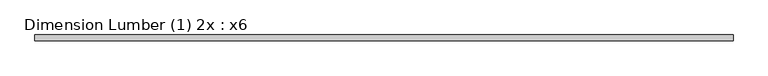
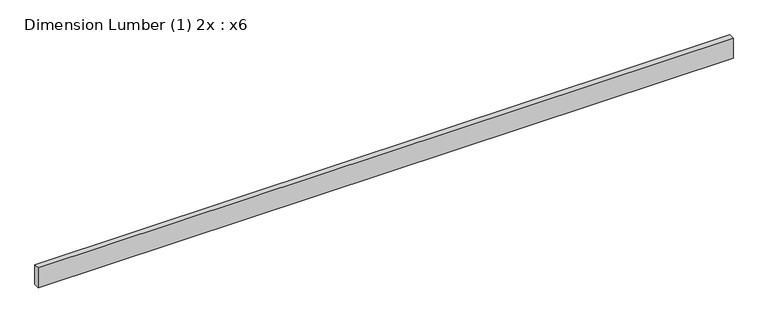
"""IFC4 building model written with IfcOpenShell, lengths in millimetres: beam geometry, Dimension Lumber (1) 2x : x6."""

import ifcopenshell
import ifcopenshell.guid

model = None  # the IFC model being written
_history = None  # IfcOwnerHistory: only IFC2X3 demands one
_inside = {}  # id of a spatial element -> (the spatial element, [elements in it])
_under = {}  # id of a project, library or spatial element -> (it, [spatial elements below it])
_declared = {}  # id of a project -> (the project, [libraries it declares])
_typed = {}  # id of a type object -> (the type object, [elements of that type])
_made_of = {}  # id of a material, layer set ... -> (it, [elements and type objects made of it])


def new_model(schema):
    """Start an empty IFC model of exactly this schema.

    Asked for "IFC4X3", IfcOpenShell would pick the latest addendum, in which some entities
    have other attributes; the version numbers below select the first issue.
    IFC2X3 requires an IfcOwnerHistory on every rooted entity: one is made here for all.
    """
    global model, _history
    if schema == "IFC4X3":
        model = ifcopenshell.file(schema_version=(4, 3, 0, 0))
    else:
        model = ifcopenshell.file(schema=schema)
    _inside.clear()
    _under.clear()
    _declared.clear()
    _typed.clear()
    _made_of.clear()
    _history = None
    if model.schema == "IFC2X3":
        org = make("IfcOrganization", Name="unknown")
        user = make(
            "IfcPersonAndOrganization",
            ThePerson=make("IfcPerson", FamilyName="unknown"),
            TheOrganization=org,
        )
        app = make(
            "IfcApplication",
            ApplicationDeveloper=org,
            Version="unknown",
            ApplicationFullName="unknown",
            ApplicationIdentifier="unknown",
        )
        _history = make(
            "IfcOwnerHistory",
            OwningUser=user,
            OwningApplication=app,
            ChangeAction="ADDED",
            CreationDate=0,
        )
    return model


def make(cls, **values):
    """One entity of the class cls with the attributes given. An attribute that is None is left unset."""
    return model.create_entity(
        cls, **{name: value for name, value in values.items() if value is not None}
    )


def rooted(cls, **values):
    """An entity with a GlobalId (a new one), such as an element, a storey or a relation."""
    return make(cls, GlobalId=ifcopenshell.guid.new(), OwnerHistory=_history, **values)


def si_unit(unit_type, name, prefix=None):
    """IfcSIUnit, for example si_unit("LENGTHUNIT", "METRE", prefix="MILLI")."""
    return make("IfcSIUnit", UnitType=unit_type, Prefix=prefix, Name=name)


def assignment(units):
    """IfcUnitAssignment: the units of a project."""
    return None if units is None else make("IfcUnitAssignment", Units=units)


def point(xyz):
    """IfcCartesianPoint."""
    return None if xyz is None else make("IfcCartesianPoint", Coordinates=xyz)


def direction(xyz):
    """IfcDirection."""
    return None if xyz is None else make("IfcDirection", DirectionRatios=xyz)


def frame(location, z_axis=None, x_axis=None):
    """IfcAxis2Placement3D, a coordinate frame: its origin and axes. An axis left out is left unset."""
    return make(
        "IfcAxis2Placement3D",
        Location=point(location),
        Axis=direction(z_axis),
        RefDirection=direction(x_axis),
    )


def origin():
    """The frame at (0, 0, 0) with its axes left unset."""
    return frame((0.0, 0.0, 0.0))


def place(relative_to, where):
    """IfcLocalPlacement: puts the frame where relative to a parent placement (None: the world)."""
    return make(
        "IfcLocalPlacement", PlacementRelTo=relative_to, RelativePlacement=where
    )


def context(
    kind, dimensions, precision=None, world=None, true_north=None, identifier=None
):
    """IfcGeometricRepresentationContext, for example the 3D "Model" context."""
    return make(
        "IfcGeometricRepresentationContext",
        ContextIdentifier=identifier,
        ContextType=kind,
        CoordinateSpaceDimension=dimensions,
        Precision=precision,
        WorldCoordinateSystem=world,
        TrueNorth=true_north,
    )


def project(units=None, contexts=None):
    """IfcProject with its units and contexts."""
    return rooted(
        "IfcProject",
        Name="project",
        RepresentationContexts=contexts,
        UnitsInContext=assignment(units),
    )


def spatial(cls, under=None, at=None, **own):
    """A site, building, storey or space (cls), placed at a placement, below another one or the project."""
    s = rooted(cls, ObjectPlacement=at, **own)
    if under is not None:
        _under.setdefault(under.id(), (under, []))[1].append(s)
    return s


def polyline(points):
    """IfcPolyline through the points."""
    return make("IfcPolyline", Points=[point(p) for p in points])


def outline(outer, holes=None, kind="AREA"):
    """IfcArbitraryClosedProfileDef: a profile drawn as a closed curve; with holes, ...WithVoids."""
    if holes is None:
        return make("IfcArbitraryClosedProfileDef", ProfileType=kind, OuterCurve=outer)
    return make(
        "IfcArbitraryProfileDefWithVoids",
        ProfileType=kind,
        OuterCurve=outer,
        InnerCurves=holes,
    )


def extrude(swept, where, along, depth):
    """IfcExtrudedAreaSolid: the profile swept, set in the frame where, extruded along a direction by depth."""
    return make(
        "IfcExtrudedAreaSolid",
        SweptArea=swept,
        Position=where,
        ExtrudedDirection=direction(along),
        Depth=depth,
    )


def shape(context_of_items, identifier, shape_type, items):
    """IfcShapeRepresentation: the items that make up one representation, for example the "Body"."""
    return make(
        "IfcShapeRepresentation",
        ContextOfItems=context_of_items,
        RepresentationIdentifier=identifier,
        RepresentationType=shape_type,
        Items=items,
    )


def source(mapping_origin, context_of_items, identifier, shape_type, items):
    """IfcRepresentationMap: a shape defined once, which mapped items show again and again."""
    return make(
        "IfcRepresentationMap",
        MappingOrigin=mapping_origin,
        MappedRepresentation=shape(context_of_items, identifier, shape_type, items),
    )


def transform(
    local_origin,
    x_axis=None,
    y_axis=None,
    z_axis=None,
    scale=None,
    scale2=None,
    scale3=None,
    uniform=True,
):
    """IfcCartesianTransformationOperator3D, or its non-uniform kind. x_axis, y_axis, z_axis: its Axis1, 2, 3."""
    if uniform:
        return make(
            "IfcCartesianTransformationOperator3D",
            Axis1=direction(x_axis),
            Axis2=direction(y_axis),
            LocalOrigin=point(local_origin),
            Scale=scale,
            Axis3=direction(z_axis),
        )
    return make(
        "IfcCartesianTransformationOperator3DnonUniform",
        Axis1=direction(x_axis),
        Axis2=direction(y_axis),
        LocalOrigin=point(local_origin),
        Scale=scale,
        Axis3=direction(z_axis),
        Scale2=scale2,
        Scale3=scale3,
    )


def mapped(mapping_source, mapping_target):
    """IfcMappedItem: shows the shape of a source again, moved by a transform."""
    return make(
        "IfcMappedItem", MappingSource=mapping_source, MappingTarget=mapping_target
    )


def made_of(thing, what):
    """Note that an element or type object is made of a material, layer set ...; save() writes the relation."""
    if what is not None:
        _made_of.setdefault(what.id(), (what, []))[1].append(thing)
    return thing


def element(
    cls,
    number,
    at=None,
    inside=None,
    cuts=None,
    type_object=None,
    material=None,
    context=None,
    identifier="Body",
    shape_type=None,
    held_by="IfcProductDefinitionShape",
    body=None,
    shapes=None,
    **own,
):
    """One element of the class cls, such as IfcWall. Its Tag is "e" and its number.

    at: its placement. inside: the storey or other place that contains it. cuts: it is an
    opening in that element (IfcRelVoidsElement). A single representation is given by context,
    identifier, shape_type and body (its items); several are given by shapes. held_by: the class
    of the entity that holds the representations. save() writes the other relations.
    """
    e = rooted(cls, Tag="e%d" % number, ObjectPlacement=at, **own)
    if body is not None:
        shapes = [shape(context, identifier, shape_type, body)]
    if shapes is not None:
        e.Representation = make(held_by, Representations=shapes)
    if inside is not None:
        _inside.setdefault(inside.id(), (inside, []))[1].append(e)
    if cuts is not None:
        rooted(
            "IfcRelVoidsElement", RelatingBuildingElement=cuts, RelatedOpeningElement=e
        )
    if type_object is not None:
        _typed.setdefault(type_object.id(), (type_object, []))[1].append(e)
    return made_of(e, material)


def aggregate(whole, parts):
    """IfcRelAggregates: a whole, such as a stair, and the parts it consists of."""
    return rooted("IfcRelAggregates", RelatingObject=whole, RelatedObjects=parts)


def save(model, path):
    """Write the relations noted so far, then the file.

    IfcRelAggregates (storeys below a building ...), IfcRelContainedInSpatialStructure (elements
    in a storey), IfcRelDefinesByType, IfcRelAssociatesMaterial and IfcRelDeclares: one each for
    every whole, place, type object, material and project.
    """
    for whole, parts in _under.values():
        aggregate(whole, parts)
    for where, things in _inside.values():
        rooted(
            "IfcRelContainedInSpatialStructure",
            RelatedElements=things,
            RelatingStructure=where,
        )
    for kind, things in _typed.values():
        rooted("IfcRelDefinesByType", RelatedObjects=things, RelatingType=kind)
    for what, things in _made_of.values():
        rooted("IfcRelAssociatesMaterial", RelatedObjects=things, RelatingMaterial=what)
    for by, libraries in _declared.values():
        rooted("IfcRelDeclares", RelatingContext=by, RelatedDefinitions=libraries)
    model.write(path)


def dimension_lumber_1_2x_x6_84497242(model_context):
    return source(origin(), model_context, "Body", "SweptSolid", [
        extrude(outline(polyline([(2321.8013, 19.05), (2321.8013, -19.05), (-2280.5263, -19.05), (-2280.5263, 19.05), (2321.8013, 19.05)])), frame((0.0, 0.0, -69.85), z_axis=(0.0, 0.0, 1.0), x_axis=(1.0, 0.0, 0.0)), (0.0, 0.0, 1.0), 139.7),
    ])


if __name__ == "__main__":
    model = new_model("IFC4")
    model_context = context("Model", 3, world=origin())
    ifc_project = project(units=[si_unit("LENGTHUNIT", "METRE", prefix="MILLI")], contexts=[model_context])
    site = spatial("IfcSite", under=ifc_project)
    building = spatial("IfcBuilding", under=site)
    placement = place(None, origin())
    dimension_lumber_1_2x_x6_shape = dimension_lumber_1_2x_x6_84497242(model_context)
    element("IfcBeam", 1, ObjectType="Dimension Lumber (1) 2x : x6", at=placement, inside=building, context=model_context, shape_type="MappedRepresentation", body=[
        mapped(dimension_lumber_1_2x_x6_shape, transform((0.0, 0.0, 0.0), x_axis=(1.0, 0.0, 0.0), y_axis=(0.0, 1.0, 0.0), z_axis=(0.0, 0.0, 1.0))),
    ])
    save(model, "model.ifc")
